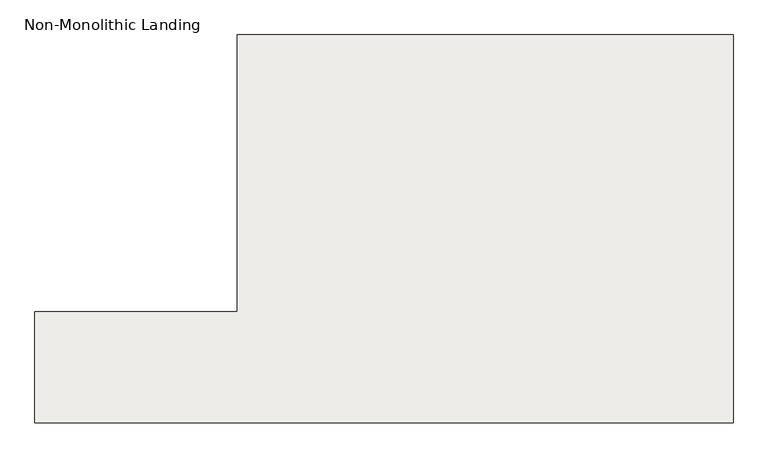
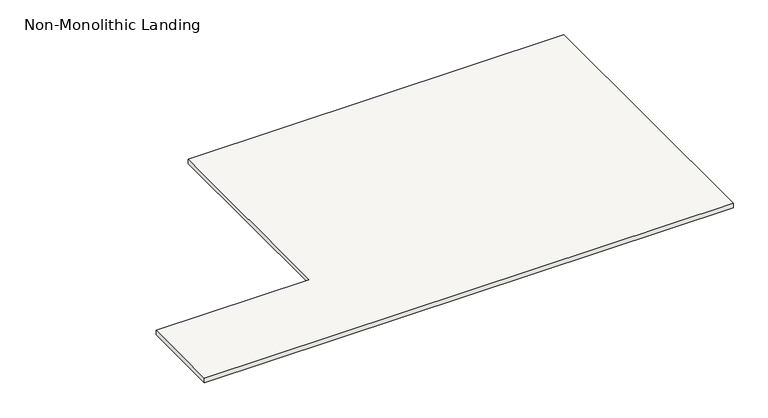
"""IFC4 building model written with IfcOpenShell, lengths in millimetres: slab geometry, Non-Monolithic Landing."""

from ifc_helpers import new_model, si_unit, frame, origin, place, context, project, spatial, polyline, outline, extrude, source, transform, mapped, element, save


def non_monolithic_landing_b52072fd(model_context):
    return source(origin(), model_context, "Body", "SweptSolid", [
        extrude(outline(polyline([(-7098.677319, 13883.1406645), (-5428.627319, 13883.1406645), (-5428.627319, 16169.1406645), (-1337.639819, 16169.1406645), (-1337.639819, 12968.7406645), (-7098.677319, 12968.7406645), (-7098.677319, 13883.1406645)])), frame((0.0, 0.0, 2997.2), z_axis=(0.0, 0.0, 1.0), x_axis=(1.0, 0.0, 0.0)), (0.0, 0.0, 1.0), 50.8),
    ])


if __name__ == "__main__":
    model = new_model("IFC4")
    model_context = context("Model", 3, world=origin())
    ifc_project = project(units=[si_unit("LENGTHUNIT", "METRE", prefix="MILLI")], contexts=[model_context])
    site = spatial("IfcSite", under=ifc_project)
    building = spatial("IfcBuilding", under=site)
    placement = place(None, origin())
    non_monolithic_landing_shape = non_monolithic_landing_b52072fd(model_context)
    element("IfcSlab", 1, ObjectType="Non-Monolithic Landing", at=placement, inside=building, context=model_context, shape_type="MappedRepresentation", body=[
        mapped(non_monolithic_landing_shape, transform((0.0, 0.0, 0.0), x_axis=(1.0, 0.0, 0.0), y_axis=(0.0, 1.0, 0.0), z_axis=(0.0, 0.0, 1.0))),
    ])
    save(model, "model.ifc")
